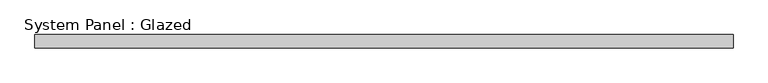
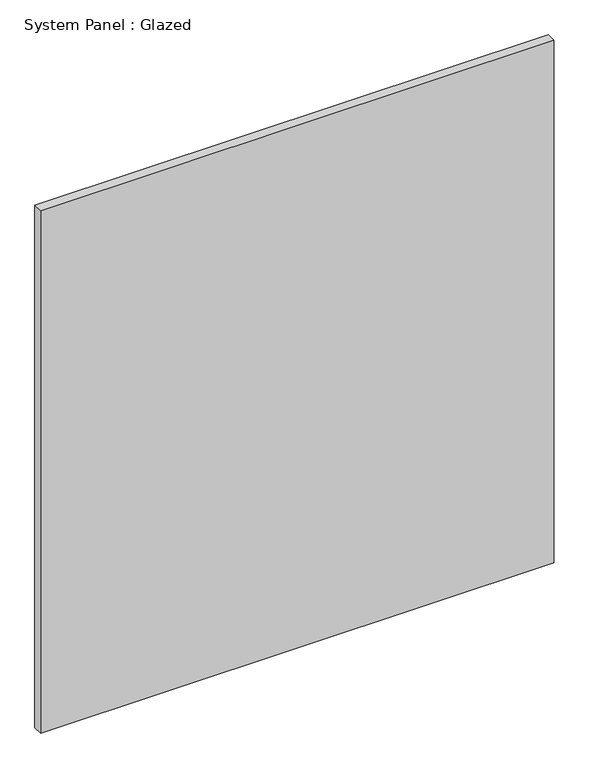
"""IFC4 building model written with IfcOpenShell, lengths in millimetres: plate geometry, System Panel : Glazed."""

from ifc_helpers import new_model, si_unit, origin, origin_with_axes, place, context, project, spatial, polyline, outline, extrude, source, transform, mapped, element, save


def system_panel_glazed_2a0213e2(model_context):
    return source(origin(), model_context, "Body", "SweptSolid", [
        extrude(outline(polyline([(662.4999998, -49.5), (-662.4999998, -49.5), (-662.4999998, -24.5), (662.4999998, -24.5), (662.4999998, -49.5)])), origin_with_axes(), (0.0, 0.0, 1.0), 1425.0),
    ])


if __name__ == "__main__":
    model = new_model("IFC4")
    model_context = context("Model", 3, world=origin())
    ifc_project = project(units=[si_unit("LENGTHUNIT", "METRE", prefix="MILLI")], contexts=[model_context])
    site = spatial("IfcSite", under=ifc_project)
    building = spatial("IfcBuilding", under=site)
    placement = place(None, origin())
    system_panel_glazed_shape = system_panel_glazed_2a0213e2(model_context)
    element("IfcPlate", 1, ObjectType="System Panel : Glazed", at=placement, inside=building, context=model_context, shape_type="MappedRepresentation", body=[
        mapped(system_panel_glazed_shape, transform((0.0, 0.0, 0.0), x_axis=(1.0, 0.0, 0.0), y_axis=(0.0, 1.0, 0.0), z_axis=(0.0, 0.0, 1.0))),
    ])
    save(model, "model.ifc")
